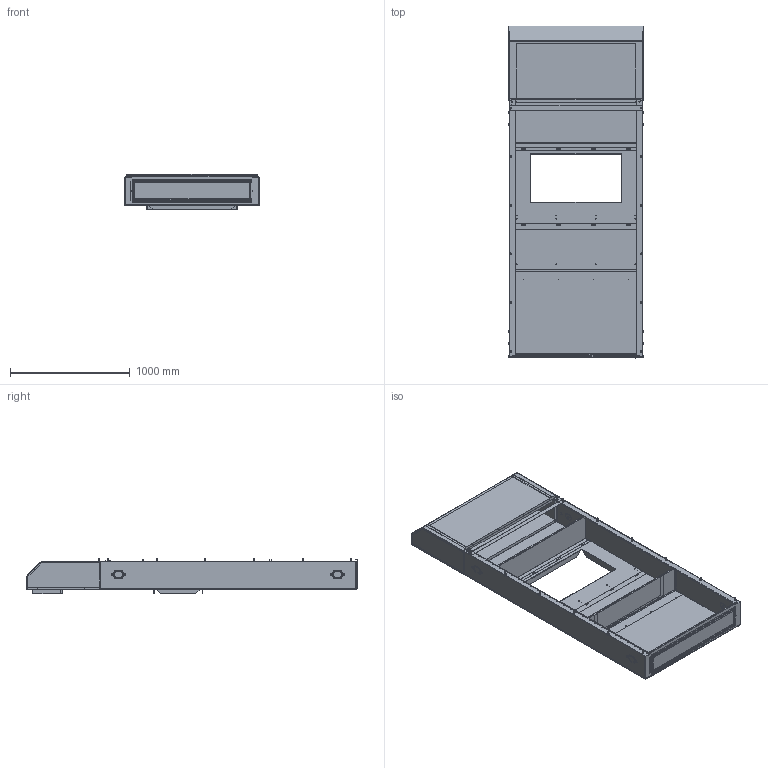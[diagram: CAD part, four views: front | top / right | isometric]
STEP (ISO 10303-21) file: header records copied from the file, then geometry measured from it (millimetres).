
FILE_DESCRIPTION (( 'STEP AP214' ), '1' );
FILE_NAME ('TCURBT4860.STEP', '2017-06-14T20:50:04', ( 'BMC' ), ( 'Bard Manufacturing Co., Inc.' ), 'SwSTEP 2.0', 'SolidWorks 2017', '' );
FILE_SCHEMA (( 'AUTOMOTIVE_DESIGN' ));
Length unit declared in the file: inch
Products named in the file (1): TCURBT4860
Bounding box: 1131.93 x 2774.04 x 299.3 mm (x, y, z)
Volume: 45947048.9 mm3; surface area: 19614572.9 mm2
Topology: 68 solids, 68 shells, 3773 faces, 9147 edges, 5272 vertices
Faces by surface type: plane 1285, cylinder 1068, cone 688, bspline 536, torus 180, sphere 16
Entity records: 194463 total; most frequent: CARTESIAN_POINT 59289, ORIENTED_EDGE 17718, DIRECTION 17519, EDGE_CURVE 8859, AXIS2_PLACEMENT_3D 6570, VERTEX_POINT 5272, EDGE_LOOP 4489, VECTOR 4379
